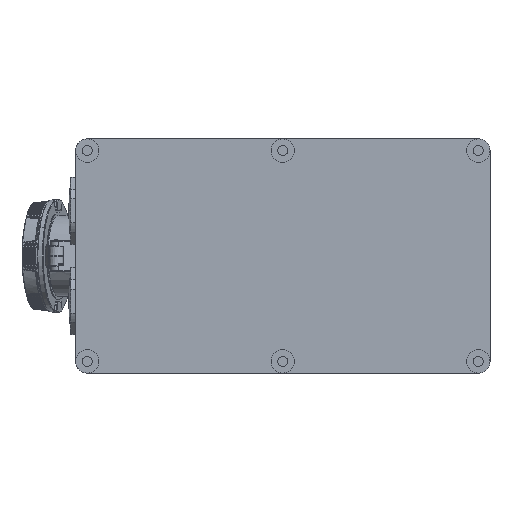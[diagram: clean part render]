
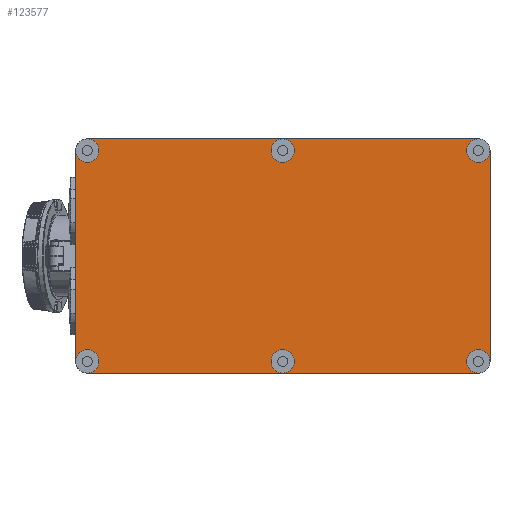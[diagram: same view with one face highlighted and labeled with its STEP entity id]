
A CAD part, left-side view. The second image highlights one B-rep face of the part: STEP entity #123577.
In plain terms, the highlighted planar face has unit normal (-1, 0, 0).
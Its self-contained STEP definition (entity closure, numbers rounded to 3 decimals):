
#338=DIRECTION('',(0.,0.,1.));
#339=VECTOR('',#338,234.);
#340=CARTESIAN_POINT('',(0.,-230.,-247.));
#341=LINE('2007',#340,#339);
#439=DIRECTION('',(0.,1.,0.));
#440=VECTOR('',#439,217.);
#441=CARTESIAN_POINT('',(0.,-217.,0.));
#442=LINE('2011',#441,#440);
#446=DIRECTION('',(0.,1.,0.));
#447=VECTOR('',#446,217.);
#448=CARTESIAN_POINT('',(0.,0.,0.));
#449=LINE('2012',#448,#447);
#510=DIRECTION('',(0.,0.,1.));
#511=VECTOR('',#510,234.);
#512=CARTESIAN_POINT('',(0.,230.,-247.));
#513=LINE('2008',#512,#511);
#56083=CARTESIAN_POINT('',(0.,-217.,-13.));
#56084=DIRECTION('',(-1.,0.,0.));
#56085=DIRECTION('',(0.,0.,1.));
#56086=AXIS2_PLACEMENT_3D('',#56083,#56084,#56085);
#56091=CARTESIAN_POINT('',(0.,-217.,-13.));
#56092=DIRECTION('',(-1.,0.,0.));
#56093=DIRECTION('',(0.,0.,-1.));
#56094=AXIS2_PLACEMENT_3D('',#56091,#56092,#56093);
#56099=CARTESIAN_POINT('',(0.,-217.,-247.));
#56100=DIRECTION('',(-1.,0.,0.));
#56101=DIRECTION('',(0.,-1.,0.));
#56102=AXIS2_PLACEMENT_3D('',#56099,#56100,#56101);
#56107=CARTESIAN_POINT('',(0.,-217.,-247.));
#56108=DIRECTION('',(-1.,0.,0.));
#56109=DIRECTION('',(0.,0.,1.));
#56110=AXIS2_PLACEMENT_3D('',#56107,#56108,#56109);
#56115=DIRECTION('',(0.,1.,0.));
#56116=VECTOR('',#56115,217.);
#56117=CARTESIAN_POINT('',(0.,-217.,-260.));
#56118=LINE('2009',#56117,#56116);
#56122=CARTESIAN_POINT('',(0.,0.,-247.));
#56123=DIRECTION('',(-1.,0.,0.));
#56124=DIRECTION('',(0.,0.,-1.));
#56125=AXIS2_PLACEMENT_3D('',#56122,#56123,#56124);
#56130=CARTESIAN_POINT('',(0.,0.,-247.));
#56131=DIRECTION('',(-1.,0.,0.));
#56132=DIRECTION('',(0.,0.,1.));
#56133=AXIS2_PLACEMENT_3D('',#56130,#56131,#56132);
#56138=DIRECTION('',(0.,1.,0.));
#56139=VECTOR('',#56138,217.);
#56140=CARTESIAN_POINT('',(0.,0.,-260.));
#56141=LINE('2010',#56140,#56139);
#56145=CARTESIAN_POINT('',(0.,217.,-247.));
#56146=DIRECTION('',(-1.,0.,0.));
#56147=DIRECTION('',(0.,0.,-1.));
#56148=AXIS2_PLACEMENT_3D('',#56145,#56146,#56147);
#56153=CARTESIAN_POINT('',(0.,217.,-247.));
#56154=DIRECTION('',(-1.,0.,0.));
#56155=DIRECTION('',(0.,0.,1.));
#56156=AXIS2_PLACEMENT_3D('',#56153,#56154,#56155);
#56161=CARTESIAN_POINT('',(0.,217.,-13.));
#56162=DIRECTION('',(-1.,0.,0.));
#56163=DIRECTION('',(0.,1.,0.));
#56164=AXIS2_PLACEMENT_3D('',#56161,#56162,#56163);
#56169=CARTESIAN_POINT('',(0.,217.,-13.));
#56170=DIRECTION('',(-1.,0.,0.));
#56171=DIRECTION('',(0.,0.,-1.));
#56172=AXIS2_PLACEMENT_3D('',#56169,#56170,#56171);
#56177=CARTESIAN_POINT('',(0.,0.,-13.));
#56178=DIRECTION('',(-1.,0.,0.));
#56179=DIRECTION('',(0.,0.,1.));
#56180=AXIS2_PLACEMENT_3D('',#56177,#56178,#56179);
#56185=CARTESIAN_POINT('',(0.,0.,-13.));
#56186=DIRECTION('',(-1.,0.,0.));
#56187=DIRECTION('',(0.,0.,-1.));
#56188=AXIS2_PLACEMENT_3D('',#56185,#56186,#56187);
#58232=CARTESIAN_POINT('',(0.,-217.,0.));
#58233=CARTESIAN_POINT('',(0.,-217.,-26.));
#58234=VERTEX_POINT('',#58232);
#58235=VERTEX_POINT('',#58233);
#58236=CARTESIAN_POINT('',(0.,-230.,-13.));
#58237=VERTEX_POINT('',#58236);
#58238=CARTESIAN_POINT('',(0.,-217.,-234.));
#58239=CARTESIAN_POINT('',(0.,-217.,-260.));
#58240=VERTEX_POINT('',#58238);
#58241=VERTEX_POINT('',#58239);
#58242=CARTESIAN_POINT('',(0.,-230.,-247.));
#58243=VERTEX_POINT('',#58242);
#58244=CARTESIAN_POINT('',(0.,0.,-234.));
#58245=CARTESIAN_POINT('',(0.,0.,-260.));
#58246=VERTEX_POINT('',#58244);
#58247=VERTEX_POINT('',#58245);
#58248=CARTESIAN_POINT('',(0.,0.,0.));
#58249=CARTESIAN_POINT('',(0.,0.,-26.));
#58250=VERTEX_POINT('',#58248);
#58251=VERTEX_POINT('',#58249);
#58252=CARTESIAN_POINT('',(0.,230.,-13.));
#58253=CARTESIAN_POINT('',(0.,217.,-26.));
#58254=VERTEX_POINT('',#58252);
#58255=VERTEX_POINT('',#58253);
#58256=CARTESIAN_POINT('',(0.,217.,0.));
#58257=VERTEX_POINT('',#58256);
#58258=CARTESIAN_POINT('',(0.,217.,-234.));
#58259=CARTESIAN_POINT('',(0.,230.,-247.));
#58260=VERTEX_POINT('',#58258);
#58261=VERTEX_POINT('',#58259);
#58262=CARTESIAN_POINT('',(0.,217.,-260.));
#58263=VERTEX_POINT('',#58262);
#123545=CARTESIAN_POINT('',(0.,-230.,-260.));
#123546=DIRECTION('',(-1.,0.,0.));
#123547=DIRECTION('',(0.,0.,1.));
#123548=AXIS2_PLACEMENT_3D('',#123545,#123546,#123547);
#123549=PLANE('31',#123548);
#123551=ORIENTED_EDGE('1983',*,*,#123550,.T.);
#123552=ORIENTED_EDGE('1984',*,*,#63078,.T.);
#123553=ORIENTED_EDGE('2007',*,*,#63045,.F.);
#123554=ORIENTED_EDGE('1986',*,*,#63323,.T.);
#123555=ORIENTED_EDGE('1985',*,*,#123524,.T.);
#123556=ORIENTED_EDGE('2009',*,*,#63291,.T.);
#123558=ORIENTED_EDGE('1988',*,*,#123557,.T.);
#123560=ORIENTED_EDGE('1987',*,*,#123559,.T.);
#123561=ORIENTED_EDGE('2010',*,*,#63289,.T.);
#123563=ORIENTED_EDGE('1994',*,*,#123562,.T.);
#123564=ORIENTED_EDGE('1993',*,*,#63240,.T.);
#123565=ORIENTED_EDGE('2008',*,*,#63201,.T.);
#123566=ORIENTED_EDGE('1991',*,*,#63162,.T.);
#123568=ORIENTED_EDGE('1992',*,*,#123567,.T.);
#123569=ORIENTED_EDGE('2012',*,*,#63129,.F.);
#123571=ORIENTED_EDGE('1989',*,*,#123570,.T.);
#123573=ORIENTED_EDGE('1990',*,*,#123572,.T.);
#123574=ORIENTED_EDGE('2011',*,*,#63127,.F.);
#123575=EDGE_LOOP('31',(#123551,#123552,#123553,#123554,#123555,#123556,#123558,
#123560,#123561,#123563,#123564,#123565,#123566,#123568,#123569,#123571,#123573,
#123574));
#123576=FACE_OUTER_BOUND('31',#123575,.F.);
#56087=CIRCLE('1983',#56086,13.);
#56095=CIRCLE('1984',#56094,13.);
#56103=CIRCLE('1986',#56102,13.);
#56111=CIRCLE('1985',#56110,13.);
#56126=CIRCLE('1988',#56125,13.);
#56134=CIRCLE('1987',#56133,13.);
#56149=CIRCLE('1994',#56148,13.);
#56157=CIRCLE('1993',#56156,13.);
#56165=CIRCLE('1991',#56164,13.);
#56173=CIRCLE('1992',#56172,13.);
#56181=CIRCLE('1989',#56180,13.);
#56189=CIRCLE('1990',#56188,13.);
#63045=EDGE_CURVE('2007',#58243,#58237,#341,.T.);
#63078=EDGE_CURVE('1984',#58235,#58237,#56095,.T.);
#63127=EDGE_CURVE('2011',#58234,#58250,#442,.T.);
#63129=EDGE_CURVE('2012',#58250,#58257,#449,.T.);
#63162=EDGE_CURVE('1991',#58254,#58255,#56165,.T.);
#63201=EDGE_CURVE('2008',#58261,#58254,#513,.T.);
#63240=EDGE_CURVE('1993',#58260,#58261,#56157,.T.);
#63289=EDGE_CURVE('2010',#58247,#58263,#56141,.T.);
#63291=EDGE_CURVE('2009',#58241,#58247,#56118,.T.);
#63323=EDGE_CURVE('1986',#58243,#58240,#56103,.T.);
#123524=EDGE_CURVE('1985',#58240,#58241,#56111,.T.);
#123550=EDGE_CURVE('1983',#58234,#58235,#56087,.T.);
#123557=EDGE_CURVE('1988',#58247,#58246,#56126,.T.);
#123559=EDGE_CURVE('1987',#58246,#58247,#56134,.T.);
#123562=EDGE_CURVE('1994',#58263,#58260,#56149,.T.);
#123567=EDGE_CURVE('1992',#58255,#58257,#56173,.T.);
#123570=EDGE_CURVE('1989',#58250,#58251,#56181,.T.);
#123572=EDGE_CURVE('1990',#58251,#58250,#56189,.T.);
#123577=ADVANCED_FACE('31',(#123576),#123549,.T.);
